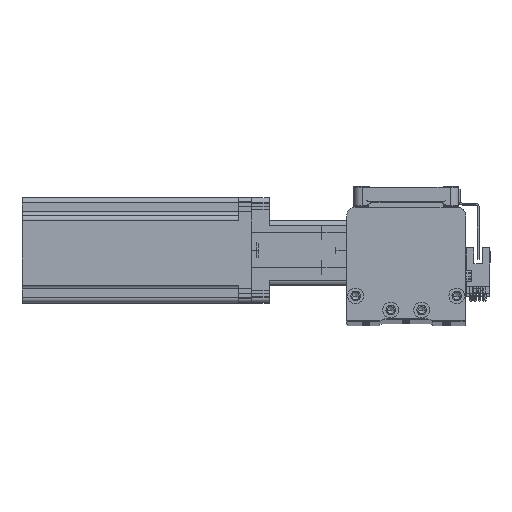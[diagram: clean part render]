
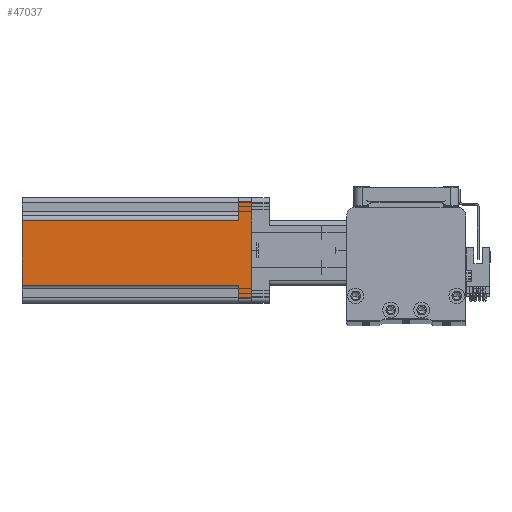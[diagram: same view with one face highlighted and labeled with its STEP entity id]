
A CAD part, top view. The second image highlights one B-rep face of the part: STEP entity #47037.
In plain terms, the highlighted planar face has unit normal (0, 0, 1) as drawn and (-1, 0, 0) by its records, which use the part's own axes.
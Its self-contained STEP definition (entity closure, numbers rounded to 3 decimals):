
#57 = ORIENTED_EDGE ( 'NONE', *, *, #24498, .F. ) ;
#63 = DIRECTION ( 'NONE',  ( 0., 0., 1. ) ) ;
#563 = CARTESIAN_POINT ( 'NONE',  ( -30., -17., 130.7 ) ) ;
#3009 = EDGE_CURVE ( 'NONE', #40331, #18696, #39505, .T. ) ;
#3019 = EDGE_LOOP ( 'NONE', ( #12334, #8694, #57, #18654, #32630, #15576, #24190, #4082 ) ) ;
#3467 = VERTEX_POINT ( 'NONE', #39106 ) ;
#3558 = VERTEX_POINT ( 'NONE', #24427 ) ;
#3685 = AXIS2_PLACEMENT_3D ( 'NONE', #9645, #36430, #13461 ) ;
#4082 = ORIENTED_EDGE ( 'NONE', *, *, #34517, .T. ) ;
#4478 = LINE ( 'NONE', #21654, #44036 ) ;
#6378 = LINE ( 'NONE', #41263, #46002 ) ;
#6766 = CARTESIAN_POINT ( 'NONE',  ( -30., 27., 130.7 ) ) ;
#7881 = VERTEX_POINT ( 'NONE', #22237 ) ;
#8694 = ORIENTED_EDGE ( 'NONE', *, *, #3009, .T. ) ;
#9645 = CARTESIAN_POINT ( 'NONE',  ( -30., -30., 130.7 ) ) ;
#9655 = EDGE_CURVE ( 'NONE', #17099, #7881, #47318, .T. ) ;
#10053 = VERTEX_POINT ( 'NONE', #15060 ) ;
#10535 = EDGE_CURVE ( 'NONE', #17099, #10938, #24417, .T. ) ;
#10656 = DIRECTION ( 'NONE',  ( 0., 0., -1. ) ) ;
#10792 = DIRECTION ( 'NONE',  ( 0., -1., 0. ) ) ;
#10938 = VERTEX_POINT ( 'NONE', #16762 ) ;
#11831 = DIRECTION ( 'NONE',  ( 0., 0., 1. ) ) ;
#12334 = ORIENTED_EDGE ( 'NONE', *, *, #24088, .F. ) ;
#12659 = CARTESIAN_POINT ( 'NONE',  ( -30., -30., 7.5 ) ) ;
#13040 = VECTOR ( 'NONE', #16490, 1000. ) ;
#13297 = PLANE ( 'NONE',  #3685 ) ;
#13461 = DIRECTION ( 'NONE',  ( 0., 0., -1. ) ) ;
#13662 = VECTOR ( 'NONE', #11831, 1000. ) ;
#13790 = DIRECTION ( 'NONE',  ( 0., 0., 1. ) ) ;
#13933 = DIRECTION ( 'NONE',  ( 0., -1., 0. ) ) ;
#15060 = CARTESIAN_POINT ( 'NONE',  ( -30., -27., 0. ) ) ;
#15429 = CARTESIAN_POINT ( 'NONE',  ( -30., 20., 7.5 ) ) ;
#15576 = ORIENTED_EDGE ( 'NONE', *, *, #43111, .T. ) ;
#16211 = LINE ( 'NONE', #6766, #46814 ) ;
#16490 = DIRECTION ( 'NONE',  ( 0., -1., 0. ) ) ;
#16587 = DIRECTION ( 'NONE',  ( 0., 1., 0. ) ) ;
#16762 = CARTESIAN_POINT ( 'NONE',  ( -30., 20., 130.7 ) ) ;
#17099 = VERTEX_POINT ( 'NONE', #15429 ) ;
#18654 = ORIENTED_EDGE ( 'NONE', *, *, #10535, .F. ) ;
#18696 = VERTEX_POINT ( 'NONE', #33683 ) ;
#20334 = VECTOR ( 'NONE', #63, 1000. ) ;
#21654 = CARTESIAN_POINT ( 'NONE',  ( -30., -30., 0. ) ) ;
#22237 = CARTESIAN_POINT ( 'NONE',  ( -30., 27., 7.5 ) ) ;
#24088 = EDGE_CURVE ( 'NONE', #40331, #3558, #43621, .T. ) ;
#24190 = ORIENTED_EDGE ( 'NONE', *, *, #28747, .T. ) ;
#24417 = LINE ( 'NONE', #44599, #47749 ) ;
#24427 = CARTESIAN_POINT ( 'NONE',  ( -30., -27., 7.5 ) ) ;
#24498 = EDGE_CURVE ( 'NONE', #10938, #18696, #6378, .T. ) ;
#26252 = CARTESIAN_POINT ( 'NONE',  ( -30., -17., 7.5 ) ) ;
#26954 = VECTOR ( 'NONE', #16587, 1000. ) ;
#28747 = EDGE_CURVE ( 'NONE', #3467, #10053, #4478, .T. ) ;
#29464 = FACE_OUTER_BOUND ( 'NONE', #3019, .T. ) ;
#30921 = CARTESIAN_POINT ( 'NONE',  ( -30., -27., 130.7 ) ) ;
#32630 = ORIENTED_EDGE ( 'NONE', *, *, #9655, .T. ) ;
#33683 = CARTESIAN_POINT ( 'NONE',  ( -30., -17., 130.7 ) ) ;
#34517 = EDGE_CURVE ( 'NONE', #10053, #3558, #44239, .T. ) ;
#36430 = DIRECTION ( 'NONE',  ( 1., 0., 0. ) ) ;
#39106 = CARTESIAN_POINT ( 'NONE',  ( -30., 27., 0. ) ) ;
#39505 = LINE ( 'NONE', #563, #20334 ) ;
#39531 = CARTESIAN_POINT ( 'NONE',  ( -30., 30., 7.5 ) ) ;
#40331 = VERTEX_POINT ( 'NONE', #26252 ) ;
#41263 = CARTESIAN_POINT ( 'NONE',  ( -30., -30., 130.7 ) ) ;
#43111 = EDGE_CURVE ( 'NONE', #7881, #3467, #16211, .T. ) ;
#43621 = LINE ( 'NONE', #12659, #13040 ) ;
#44036 = VECTOR ( 'NONE', #13933, 1000. ) ;
#44239 = LINE ( 'NONE', #30921, #13662 ) ;
#44599 = CARTESIAN_POINT ( 'NONE',  ( -30., 20., 7.5 ) ) ;
#46002 = VECTOR ( 'NONE', #10792, 1000. ) ;
#46814 = VECTOR ( 'NONE', #10656, 1000. ) ;
#47037 = ADVANCED_FACE ( 'NONE', ( #29464 ), #13297, .F. ) ;
#47318 = LINE ( 'NONE', #39531, #26954 ) ;
#47749 = VECTOR ( 'NONE', #13790, 1000. ) ;
